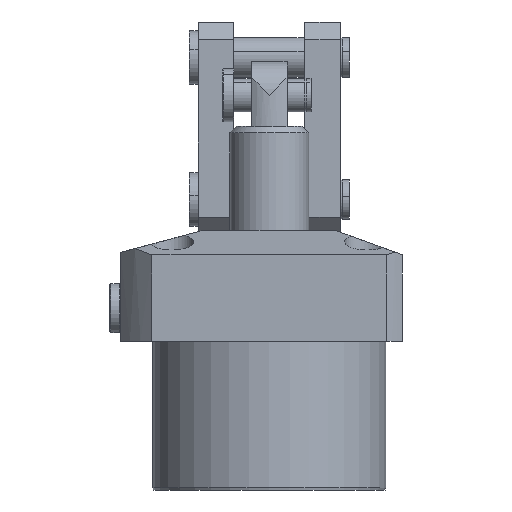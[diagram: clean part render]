
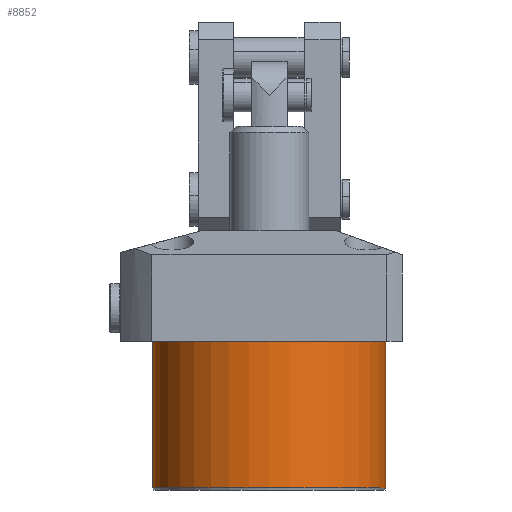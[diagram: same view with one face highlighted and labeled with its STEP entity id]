
A CAD part, front view. The second image highlights one B-rep face of the part: STEP entity #8852.
In plain terms, the highlighted cylindrical face has radius 52.5 mm (diameter 105 mm), a partial arc.
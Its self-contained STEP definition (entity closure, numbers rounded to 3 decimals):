
#1326 = EDGE_CURVE ( 'NONE', #10324, #7104, #13814, .T. ) ;
#1660 = CYLINDRICAL_SURFACE ( 'NONE', #6264, 52.5 ) ;
#2848 = CARTESIAN_POINT ( 'NONE',  ( -52.5, 0., -67. ) ) ;
#3555 = AXIS2_PLACEMENT_3D ( 'NONE', #11824, #4178, #13080 ) ;
#3662 = ORIENTED_EDGE ( 'NONE', *, *, #1326, .T. ) ;
#3902 = VECTOR ( 'NONE', #5465, 1000. ) ;
#3926 = CARTESIAN_POINT ( 'NONE',  ( 52.5, 0., -67. ) ) ;
#4038 = DIRECTION ( 'NONE',  ( 1., 0., 0. ) ) ;
#4064 = EDGE_LOOP ( 'NONE', ( #5983, #3662, #14714, #16304 ) ) ;
#4178 = DIRECTION ( 'NONE',  ( 0., 0., -1. ) ) ;
#4535 = VERTEX_POINT ( 'NONE', #8628 ) ;
#5176 = DIRECTION ( 'NONE',  ( 0., 0., 1. ) ) ;
#5465 = DIRECTION ( 'NONE',  ( 0., 0., 1. ) ) ;
#5687 = AXIS2_PLACEMENT_3D ( 'NONE', #15391, #16064, #15416 ) ;
#5983 = ORIENTED_EDGE ( 'NONE', *, *, #14973, .F. ) ;
#6264 = AXIS2_PLACEMENT_3D ( 'NONE', #11686, #10447, #4038 ) ;
#7104 = VERTEX_POINT ( 'NONE', #15273 ) ;
#7735 = CIRCLE ( 'NONE', #3555, 52.5 ) ;
#8628 = CARTESIAN_POINT ( 'NONE',  ( -52.5, 0., 0. ) ) ;
#8653 = LINE ( 'NONE', #3926, #11961 ) ;
#8852 = ADVANCED_FACE ( 'NONE', ( #9297 ), #1660, .T. ) ;
#9297 = FACE_OUTER_BOUND ( 'NONE', #4064, .T. ) ;
#9503 = CARTESIAN_POINT ( 'NONE',  ( -52.5, 0., -66. ) ) ;
#10324 = VERTEX_POINT ( 'NONE', #9503 ) ;
#10447 = DIRECTION ( 'NONE',  ( 0., 0., 1. ) ) ;
#11119 = LINE ( 'NONE', #2848, #3902 ) ;
#11609 = EDGE_CURVE ( 'NONE', #7104, #15933, #8653, .T. ) ;
#11686 = CARTESIAN_POINT ( 'NONE',  ( 0., 0., -67. ) ) ;
#11824 = CARTESIAN_POINT ( 'NONE',  ( 0., 0., 0. ) ) ;
#11961 = VECTOR ( 'NONE', #5176, 1000. ) ;
#13080 = DIRECTION ( 'NONE',  ( 1., 0., 0. ) ) ;
#13725 = CARTESIAN_POINT ( 'NONE',  ( 52.5, 0., 0. ) ) ;
#13814 = CIRCLE ( 'NONE', #5687, 52.5 ) ;
#14714 = ORIENTED_EDGE ( 'NONE', *, *, #11609, .T. ) ;
#14929 = EDGE_CURVE ( 'NONE', #15933, #4535, #7735, .T. ) ;
#14973 = EDGE_CURVE ( 'NONE', #10324, #4535, #11119, .T. ) ;
#15273 = CARTESIAN_POINT ( 'NONE',  ( 52.5, 0., -66. ) ) ;
#15391 = CARTESIAN_POINT ( 'NONE',  ( 0., 0., -66. ) ) ;
#15416 = DIRECTION ( 'NONE',  ( -1., 0., 0. ) ) ;
#15933 = VERTEX_POINT ( 'NONE', #13725 ) ;
#16064 = DIRECTION ( 'NONE',  ( 0., 0., 1. ) ) ;
#16304 = ORIENTED_EDGE ( 'NONE', *, *, #14929, .T. ) ;
